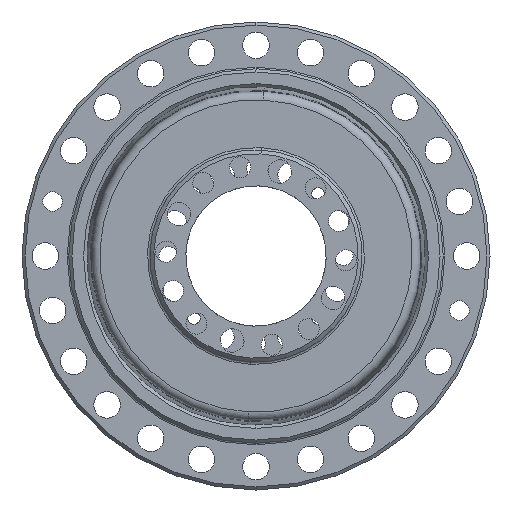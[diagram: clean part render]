
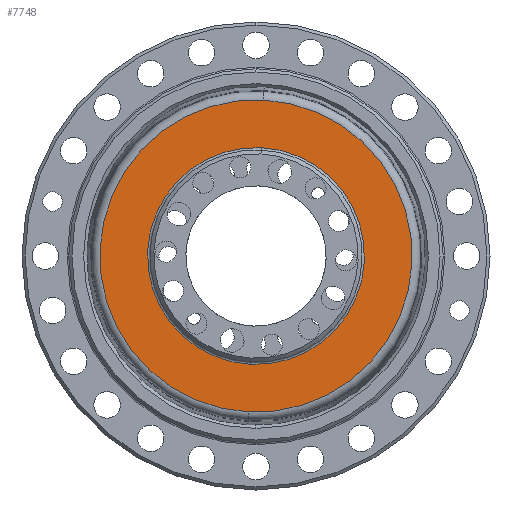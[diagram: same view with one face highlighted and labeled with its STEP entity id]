
A CAD part, left-side view. The second image highlights one B-rep face of the part: STEP entity #7748.
In plain terms, the highlighted planar face has unit normal (-1, 0, 0).
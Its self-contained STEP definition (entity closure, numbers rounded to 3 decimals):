
#214 = CARTESIAN_POINT ( 'NONE',  ( 2.7, 0., 0. ) ) ;
#577 = ORIENTED_EDGE ( 'NONE', *, *, #5366, .F. ) ;
#762 = AXIS2_PLACEMENT_3D ( 'NONE', #5885, #13237, #6943 ) ;
#1028 = ORIENTED_EDGE ( 'NONE', *, *, #3632, .T. ) ;
#1276 = DIRECTION ( 'NONE',  ( 0., 0., 1. ) ) ;
#1473 = CARTESIAN_POINT ( 'NONE',  ( 2.7, 0., 0. ) ) ;
#2529 = DIRECTION ( 'NONE',  ( 0., 0., 1. ) ) ;
#2570 = DIRECTION ( 'NONE',  ( -1., 0., 0. ) ) ;
#2685 = DIRECTION ( 'NONE',  ( 1., 0., 0. ) ) ;
#2868 = AXIS2_PLACEMENT_3D ( 'NONE', #1473, #8817, #2529 ) ;
#3464 = AXIS2_PLACEMENT_3D ( 'NONE', #8857, #2570, #9928 ) ;
#3632 = EDGE_CURVE ( 'NONE', #11749, #10606, #5504, .T. ) ;
#3697 = CARTESIAN_POINT ( 'NONE',  ( 2.7, 20.021, 0. ) ) ;
#3709 = AXIS2_PLACEMENT_3D ( 'NONE', #3697, #2685, #10031 ) ;
#4029 = VERTEX_POINT ( 'NONE', #12772 ) ;
#4279 = CARTESIAN_POINT ( 'NONE',  ( 2.7, 0., -13.9 ) ) ;
#4479 = CIRCLE ( 'NONE', #762, 13.9 ) ;
#5141 = ORIENTED_EDGE ( 'NONE', *, *, #8738, .F. ) ;
#5366 = EDGE_CURVE ( 'NONE', #11941, #4029, #4479, .T. ) ;
#5386 = EDGE_LOOP ( 'NONE', ( #5141, #577 ) ) ;
#5504 = CIRCLE ( 'NONE', #2868, 20.021 ) ;
#5885 = CARTESIAN_POINT ( 'NONE',  ( 2.7, 0., 0. ) ) ;
#6019 = CARTESIAN_POINT ( 'NONE',  ( 2.7, 0., -20.021 ) ) ;
#6387 = CIRCLE ( 'NONE', #8291, 13.9 ) ;
#6943 = DIRECTION ( 'NONE',  ( 0., 0., 1. ) ) ;
#7535 = CIRCLE ( 'NONE', #3464, 20.021 ) ;
#7546 = DIRECTION ( 'NONE',  ( -1., 0., 0. ) ) ;
#7748 = ADVANCED_FACE ( 'NONE', ( #12334, #12659 ), #8977, .F. ) ;
#8291 = AXIS2_PLACEMENT_3D ( 'NONE', #214, #7546, #1276 ) ;
#8461 = ORIENTED_EDGE ( 'NONE', *, *, #10891, .T. ) ;
#8738 = EDGE_CURVE ( 'NONE', #4029, #11941, #6387, .T. ) ;
#8817 = DIRECTION ( 'NONE',  ( -1., 0., 0. ) ) ;
#8857 = CARTESIAN_POINT ( 'NONE',  ( 2.7, 0., 0. ) ) ;
#8977 = PLANE ( 'NONE',  #3709 ) ;
#9928 = DIRECTION ( 'NONE',  ( 0., 0., 1. ) ) ;
#10031 = DIRECTION ( 'NONE',  ( 0., 0., -1. ) ) ;
#10158 = CARTESIAN_POINT ( 'NONE',  ( 2.7, 0., 20.021 ) ) ;
#10606 = VERTEX_POINT ( 'NONE', #10158 ) ;
#10891 = EDGE_CURVE ( 'NONE', #10606, #11749, #7535, .T. ) ;
#11749 = VERTEX_POINT ( 'NONE', #6019 ) ;
#11941 = VERTEX_POINT ( 'NONE', #4279 ) ;
#12334 = FACE_BOUND ( 'NONE', #5386, .T. ) ;
#12659 = FACE_OUTER_BOUND ( 'NONE', #13471, .T. ) ;
#12772 = CARTESIAN_POINT ( 'NONE',  ( 2.7, 0., 13.9 ) ) ;
#13237 = DIRECTION ( 'NONE',  ( -1., 0., 0. ) ) ;
#13471 = EDGE_LOOP ( 'NONE', ( #8461, #1028 ) ) ;
